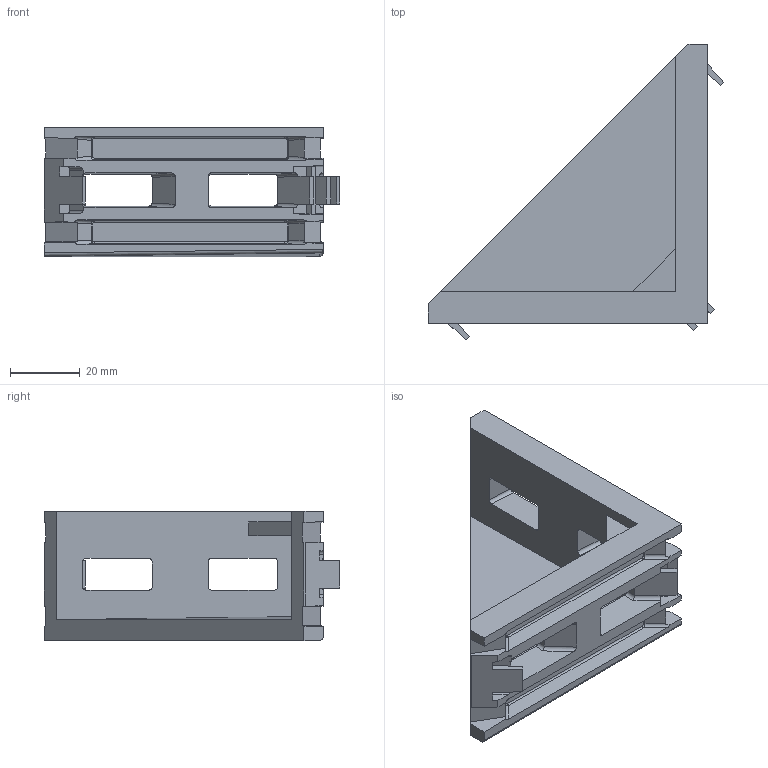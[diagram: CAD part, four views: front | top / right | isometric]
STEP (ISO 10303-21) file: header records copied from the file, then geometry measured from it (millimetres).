
FILE_DESCRIPTION(/* description */ ('www.motedis.com/part/S8IBR4080','CAx-IF Rec.Pracs.---Representation and Presentation of Product Manufacturing Information (PMI)---4.0---2014-10-13'),/* implementation_level */ '2;1');
FILE_NAME(/* name */ 'Motedis_S8IBR4080.stp',/* time_stamp */ '2026-05-04T12:58:29+02:00',/* author */ ('Motedis'),/* organization */ ('Motedis GmbH'),/* preprocessor_version */ 'ST-DEVELOPER v20.1',/* originating_system */ 'Autodesk Inventor 2026',/* authorisation */ 'Motedis GmbH');
FILE_SCHEMA (('AP242_MANAGED_MODEL_BASED_3D_ENGINEERING_MIM_LF { 1 0 10303 442 2 1 4 }'));
Length unit declared in the file: millimetre
Products named in the file (1): Motedis_S8IBR4080
Bounding box: 84.8 x 84.8 x 37 mm (x, y, z)
Volume: 45186.1 mm3; surface area: 22075.3 mm2
Topology: 1 solids, 1 shells, 198 faces, 570 edges, 370 vertices
Faces by surface type: plane 112, cylinder 62, bspline 24
Entity records: 7927 total; most frequent: CARTESIAN_POINT 2601, ORIENTED_EDGE 1140, DIRECTION 1087, EDGE_CURVE 570, VERTEX_POINT 370, LINE 365, VECTOR 365, AXIS2_PLACEMENT_3D 361
